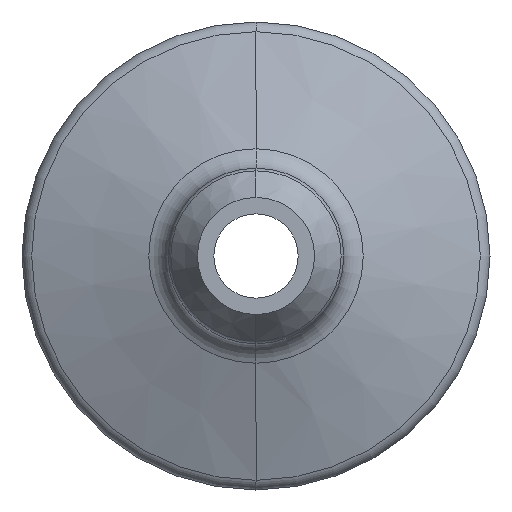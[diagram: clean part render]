
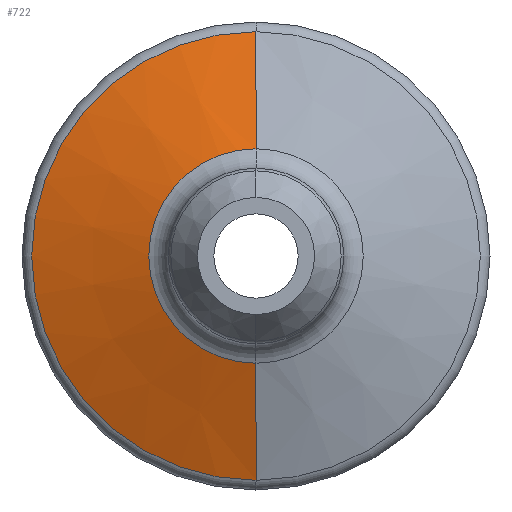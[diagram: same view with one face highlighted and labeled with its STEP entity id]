
A CAD part, left-side view. The second image highlights one B-rep face of the part: STEP entity #722.
In plain terms, the highlighted conical face has half-angle 70 degrees and reference radius 5.818 mm.
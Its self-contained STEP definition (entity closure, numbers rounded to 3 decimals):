
#8 = DIRECTION ( 'NONE',  ( 0., 0., 1. ) ) ;
#13 = DIRECTION ( 'NONE',  ( -1., 0., 0. ) ) ;
#21 = FACE_OUTER_BOUND ( 'NONE', #952, .T. ) ;
#27 = CARTESIAN_POINT ( 'NONE',  ( 47.87, 0., -5.818 ) ) ;
#52 = CARTESIAN_POINT ( 'NONE',  ( 50.183, 0., 0. ) ) ;
#60 = VERTEX_POINT ( 'NONE', #605 ) ;
#98 = AXIS2_PLACEMENT_3D ( 'NONE', #368, #362, #208 ) ;
#145 = VERTEX_POINT ( 'NONE', #699 ) ;
#147 = VECTOR ( 'NONE', #501, 1000. ) ;
#181 = ORIENTED_EDGE ( 'NONE', *, *, #985, .F. ) ;
#208 = DIRECTION ( 'NONE',  ( 0., 0., 1. ) ) ;
#362 = DIRECTION ( 'NONE',  ( -1., 0., 0. ) ) ;
#363 = CIRCLE ( 'NONE', #383, 12.174 ) ;
#365 = AXIS2_PLACEMENT_3D ( 'NONE', #987, #983, #991 ) ;
#368 = CARTESIAN_POINT ( 'NONE',  ( 47.87, 0., 0. ) ) ;
#383 = AXIS2_PLACEMENT_3D ( 'NONE', #52, #13, #8 ) ;
#389 = ORIENTED_EDGE ( 'NONE', *, *, #529, .T. ) ;
#390 = EDGE_CURVE ( 'NONE', #145, #60, #630, .T. ) ;
#501 = DIRECTION ( 'NONE',  ( 0.342, 0., -0.94 ) ) ;
#529 = EDGE_CURVE ( 'NONE', #60, #891, #363, .T. ) ;
#548 = CARTESIAN_POINT ( 'NONE',  ( 47.87, 0., 5.818 ) ) ;
#587 = LINE ( 'NONE', #27, #147 ) ;
#605 = CARTESIAN_POINT ( 'NONE',  ( 50.183, 0., 12.174 ) ) ;
#630 = LINE ( 'NONE', #548, #806 ) ;
#639 = CIRCLE ( 'NONE', #98, 5.818 ) ;
#685 = ORIENTED_EDGE ( 'NONE', *, *, #702, .F. ) ;
#699 = CARTESIAN_POINT ( 'NONE',  ( 47.87, 0., 5.818 ) ) ;
#702 = EDGE_CURVE ( 'NONE', #145, #963, #639, .T. ) ;
#710 = DIRECTION ( 'NONE',  ( 0.342, 0., 0.94 ) ) ;
#722 = ADVANCED_FACE ( 'NONE', ( #21 ), #776, .T. ) ;
#736 = CARTESIAN_POINT ( 'NONE',  ( 47.87, 0., -5.818 ) ) ;
#738 = ORIENTED_EDGE ( 'NONE', *, *, #390, .T. ) ;
#776 = CONICAL_SURFACE ( 'NONE', #365, 5.818, 1.222 ) ;
#806 = VECTOR ( 'NONE', #710, 1000. ) ;
#852 = CARTESIAN_POINT ( 'NONE',  ( 50.183, 0., -12.174 ) ) ;
#891 = VERTEX_POINT ( 'NONE', #852 ) ;
#952 = EDGE_LOOP ( 'NONE', ( #685, #738, #389, #181 ) ) ;
#963 = VERTEX_POINT ( 'NONE', #736 ) ;
#983 = DIRECTION ( 'NONE',  ( 1., 0., 0. ) ) ;
#985 = EDGE_CURVE ( 'NONE', #963, #891, #587, .T. ) ;
#987 = CARTESIAN_POINT ( 'NONE',  ( 47.87, 0., 0. ) ) ;
#991 = DIRECTION ( 'NONE',  ( 0., 0., -1. ) ) ;
